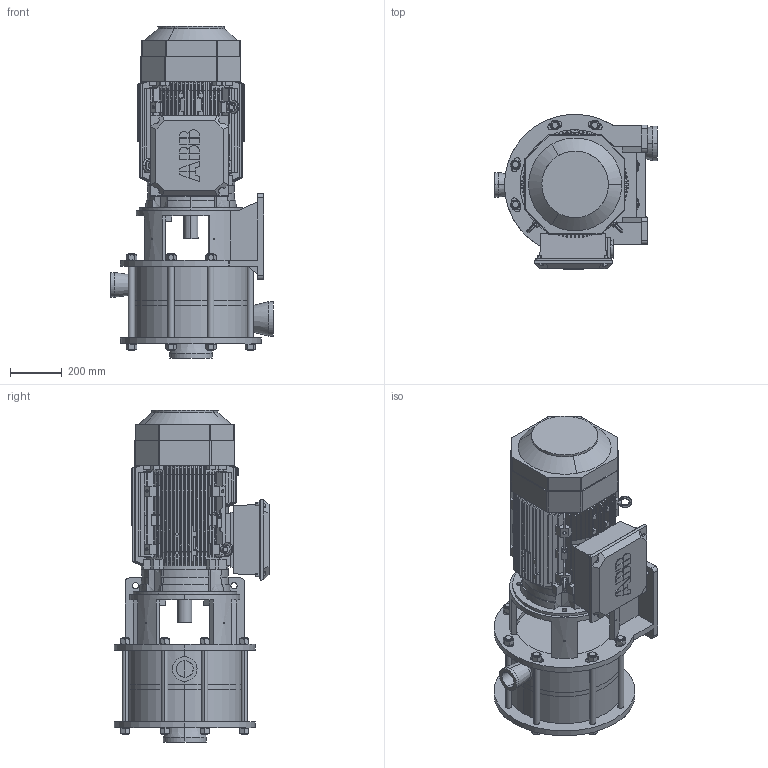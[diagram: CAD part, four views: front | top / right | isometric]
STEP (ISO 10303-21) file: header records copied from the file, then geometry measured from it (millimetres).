
FILE_DESCRIPTION((''),'2;1');
FILE_NAME('MJ100 Plastic--200L frame.stp','2010-08-04T14:29:07',(''),(''),'AutoCAD STEP 2000i','AutoCAD 2000i',', , ');
FILE_SCHEMA(('CONFIG_CONTROL_DESIGN'));
Length unit declared in the file: millimetre
Products named in the file (8): MJ100 PLASTIC--200L FRAME A; Motor; M3BP200ML vertical; M3BP180ML; M3BP160MLB4 (long); AnyA; Any; AnyAA
Assembly tree (4 placements, depth 2):
  MJ100 PLASTIC--200L FRAME A
    Motor
    M3BP200ML vertical
    M3BP180ML
    M3BP160MLB4 (long)
  AnyA
  Any
  AnyAA
Bounding box: 626 x 599.72 x 1281.11 mm (x, y, z)
Volume: 145107511.6 mm3; surface area: 6240563.3 mm2
Topology: 18 solids, 130 shells, 2732 faces, 7597 edges, 4945 vertices
Faces by surface type: plane 1145, bspline 622, torus 448, cylinder 435, cone 82
Entity records: 93912 total; most frequent: CARTESIAN_POINT 29945, ORIENTED_EDGE 15110, DIRECTION 11351, EDGE_CURVE 7555, VERTEX_POINT 4945, AXIS2_PLACEMENT_3D 4207, VECTOR 2937, LINE 2937
